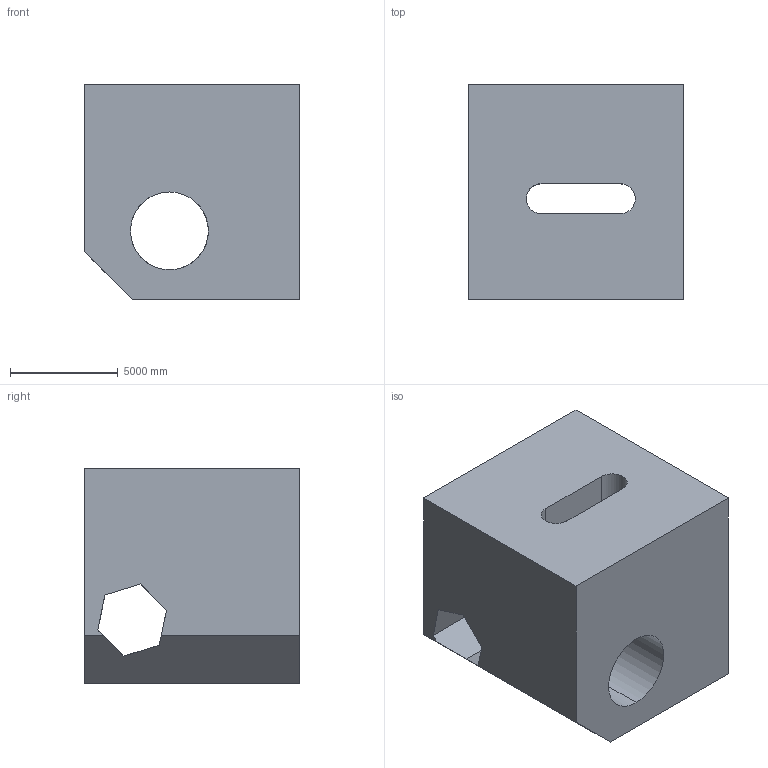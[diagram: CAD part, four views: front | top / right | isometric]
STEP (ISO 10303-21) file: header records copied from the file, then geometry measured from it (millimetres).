
FILE_DESCRIPTION (( 'STEP AP203' ), '1' );
FILE_NAME ('1383.STEP', '2022-08-18T14:09:38', ( 'user' ), ( '' ), 'SwSTEP 2.0', 'SolidWorks 2021', '' );
FILE_SCHEMA (( 'CONFIG_CONTROL_DESIGN' ));
Length unit declared in the file: centimetre
Products named in the file (1): 1383
Bounding box: 10000 x 10000 x 10000 mm (x, y, z)
Volume: 767505393433.8 mm3; surface area: 786184873 mm2
Topology: 1 solids, 1 shells, 27 faces, 90 edges, 60 vertices
Faces by surface type: plane 19, cylinder 8
Entity records: 1317 total; most frequent: CARTESIAN_POINT 462, ORIENTED_EDGE 180, DIRECTION 146, EDGE_CURVE 90, VERTEX_POINT 60, LINE 58, VECTOR 58, AXIS2_PLACEMENT_3D 44
